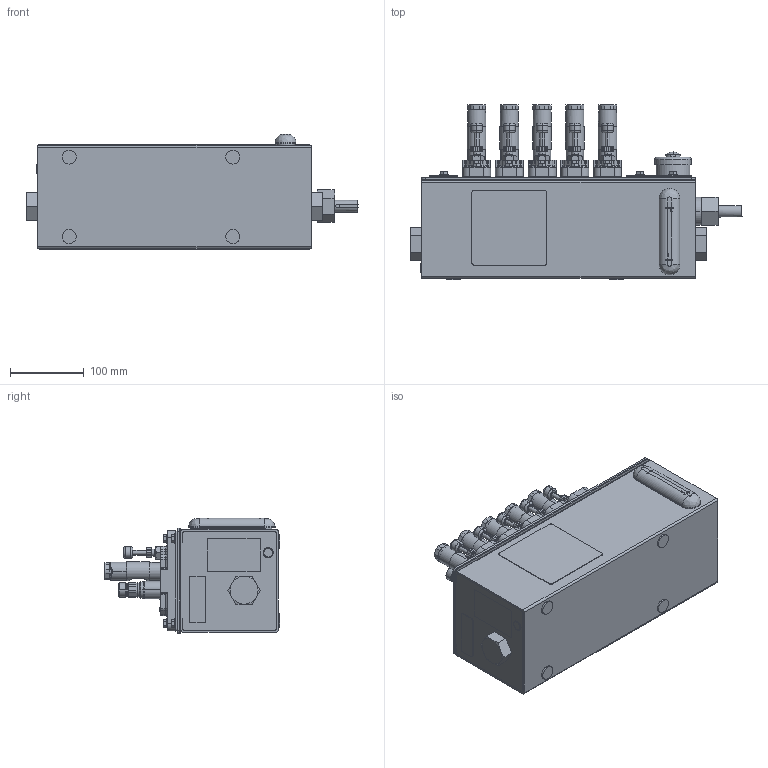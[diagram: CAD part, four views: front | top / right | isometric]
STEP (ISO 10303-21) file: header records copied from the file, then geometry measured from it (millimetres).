
FILE_DESCRIPTION((''),'2;1');
FILE_NAME('24W635-EN-H_PRT','2019-12-31T18:33:09',('qusrh3'),(''),'CREO PARAMETRIC BY PTC INC, 2019030','CREO PARAMETRIC BY PTC INC, 2019030','');
FILE_SCHEMA(('CONFIG_CONTROL_DESIGN'));
Length unit declared in the file: inch
Products named in the file (1): 24W635-EN-H_PRT
Bounding box: 450.88 x 238.86 x 156.72 mm (x, y, z)
Surface area: 575806.1 mm2 (no closed solid volume)
Topology: 0 solids, 154 shells, 1651 faces, 4439 edges, 2890 vertices
Faces by surface type: plane 670, cylinder 576, cone 263, torus 112, bspline 28, sphere 2
Entity records: 57514 total; most frequent: CARTESIAN_POINT 17067, DIRECTION 8642, ORIENTED_EDGE 7935, EDGE_CURVE 4437, AXIS2_PLACEMENT_3D 3280, VERTEX_POINT 2890, VECTOR 2082, LINE 2082
